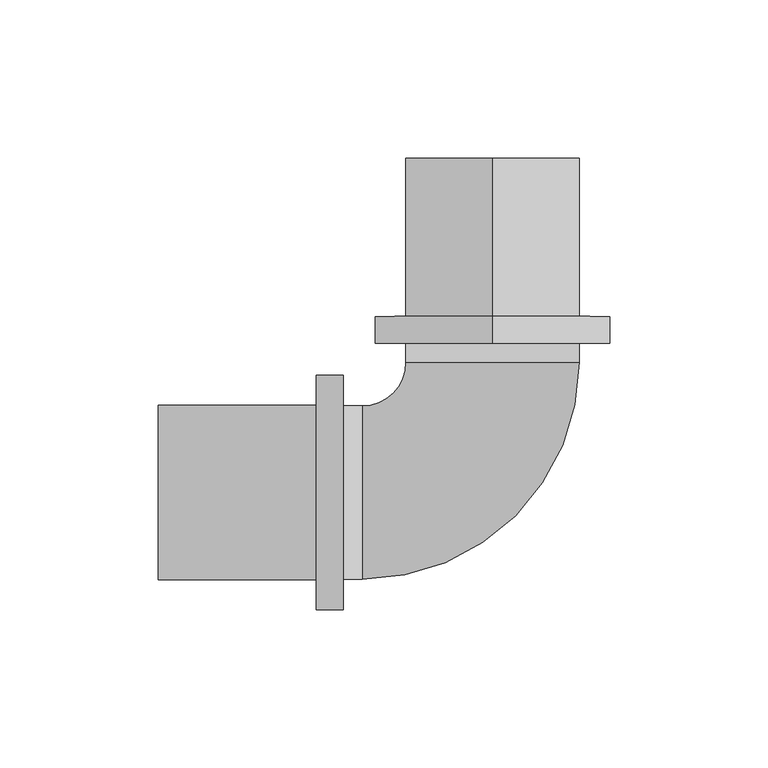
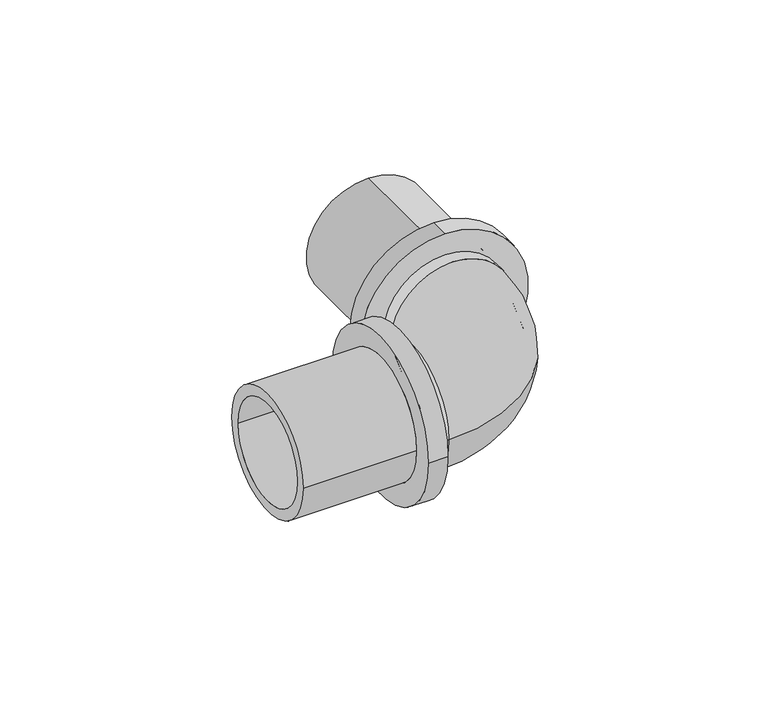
"""IFC4 building model written with IfcOpenShell, lengths in millimetres: pipe fitting geometry, RAUTITAN_Corner_RX+ stabil : RTI RX+ stabil C DN."""

from ifc_helpers import new_model, si_unit, point, frame, origin, place, context, project, spatial, polyline, circle_curve, ellipse_curve, trimmed, source, transform, mapped, element, save
from ifc_brep_helpers import plane_surface, cylinder_surface, revolved_surface, advanced_brep


def pipe_fitting_89e89fea(model_context):
    return source(origin(), model_context, "Body", "AdvancedBrep", [
        advanced_brep(
        [(0.0, 55.6, 37.05), (0.0, 55.6, -37.05), (0.0, 47.1, -37.05), (0.0, 47.1, 37.05), (0.0, 105.6, 27.55), (0.0, 105.6, -27.55), (0.0, 55.6, -27.55), (0.0, 55.6, 27.55), (0.0, 47.1, 22.75), (0.0, 47.1, -22.75), (0.0, 105.6, -22.75), (0.0, 105.6, 22.75)],
        [
            (0, 1, circle_curve(frame((0.0, 55.6, 0.0), z_axis=(0.0, -1.0, 0.0), x_axis=(0.0, 0.0, -1.0)), 37.05)),
            (1, 2),
            (2, 3, circle_curve(frame((0.0, 47.1, 0.0), z_axis=(0.0, 1.0, 0.0), x_axis=(0.0, 0.0, -1.0)), 37.05)),
            (3, 0),
            (4, 5, circle_curve(frame((0.0, 105.6, 0.0), z_axis=(0.0, -1.0, 0.0), x_axis=(0.0, 0.0, -1.0)), 27.55)),
            (5, 6),
            (6, 7, circle_curve(frame((0.0, 55.6, 0.0), z_axis=(0.0, 1.0, 0.0), x_axis=(0.0, 0.0, -1.0)), 27.55)),
            (7, 4),
            (8, 9, circle_curve(frame((0.0, 47.1, 0.0), z_axis=(0.0, -1.0, 0.0), x_axis=(0.0, 0.0, -1.0)), 22.75)),
            (9, 10),
            (10, 11, circle_curve(frame((0.0, 105.6, 0.0), z_axis=(0.0, 1.0, 0.0), x_axis=(0.0, 0.0, -1.0)), 22.75)),
            (11, 8),
            (1, 0, circle_curve(frame((0.0, 55.6, 0.0), z_axis=(0.0, -1.0, 0.0), x_axis=(0.0, 0.0, 1.0)), 37.05)),
            (3, 2, circle_curve(frame((0.0, 47.1, 0.0), z_axis=(0.0, 1.0, 0.0), x_axis=(0.0, 0.0, 1.0)), 37.05)),
            (6, 7, circle_curve(frame((0.0, 55.6, 0.0), z_axis=(0.0, -1.0, 0.0), x_axis=(0.0, 0.0, 1.0)), 27.55)),
            (5, 4, circle_curve(frame((0.0, 105.6, 0.0), z_axis=(0.0, -1.0, 0.0), x_axis=(0.0, 0.0, 1.0)), 27.55)),
            (10, 11, circle_curve(frame((0.0, 105.6, 0.0), z_axis=(0.0, -1.0, 0.0), x_axis=(0.0, 0.0, 1.0)), 22.75)),
            (9, 8, circle_curve(frame((0.0, 47.1, 0.0), z_axis=(0.0, -1.0, 0.0), x_axis=(0.0, 0.0, 1.0)), 22.75)),
        ],
        [
            cylinder_surface(frame((0.0, 47.1, 0.0), z_axis=(0.0, 1.0, 0.0), x_axis=(0.0, 0.0, -1.0)), 37.05),
            cylinder_surface(frame((0.0, 47.1, 0.0), z_axis=(0.0, 1.0, 0.0), x_axis=(0.0, 0.0, -1.0)), 27.55),
            revolved_surface(polyline([(0.0, 105.6, -22.75), (0.0, 47.1, -22.75)]), (0.0, 47.1, 0.0), (0.0, 1.0, 0.0)),
            cylinder_surface(frame((0.0, 47.1, 0.0), z_axis=(0.0, 1.0, 0.0), x_axis=(0.0, 0.0, 1.0)), 37.05),
            plane_surface(frame((0.0, 55.6, 0.0), z_axis=(0.0, 1.0, 0.0), x_axis=(0.0, 0.0, 1.0))),
            cylinder_surface(frame((0.0, 47.1, 0.0), z_axis=(0.0, 1.0, 0.0), x_axis=(0.0, 0.0, 1.0)), 27.55),
            plane_surface(frame((0.0, 105.6, 0.0), z_axis=(0.0, 1.0, 0.0), x_axis=(0.0, 0.0, 1.0))),
            revolved_surface(polyline([(0.0, 105.6, 22.75), (0.0, 47.1, 22.75)]), (0.0, 47.1, 0.0), (0.0, 1.0, 0.0)),
            plane_surface(frame((0.0, 47.1, 0.0), z_axis=(0.0, -1.0, 0.0), x_axis=(0.0, 0.0, 1.0))),
        ],
        [
            (0, [[1, 2, 3, 4]]),
            (1, [[5, 6, 7, 8]]),
            (2, [[9, 10, 11, 12]]),
            (3, [[13, -4, 14, -2]]),
            (4, [[-13, -1], [15, -7]]),
            (5, [[16, -8, -15, -6]]),
            (6, [[-16, -5], [17, -11]]),
            (7, [[18, -12, -17, -10]]),
            (8, [[-14, -3], [-18, -9]]),
        ],
    ),
        advanced_brep(
        [(-55.6, -37.05, 0.0), (-55.6, 37.05, 0.0), (-47.1, 37.05, 0.0), (-47.1, -37.05, 0.0), (-105.6, -27.55, 0.0), (-105.6, 27.55, 0.0), (-55.6, 27.55, 0.0), (-55.6, -27.55, 0.0), (-47.1, -22.75, 0.0), (-47.1, 22.75, 0.0), (-105.6, 22.75, 0.0), (-105.6, -22.75, 0.0)],
        [
            (0, 1, circle_curve(frame((-55.6, 0.0, 0.0), z_axis=(1.0, 0.0, 0.0), x_axis=(0.0, 1.0, 0.0)), 37.05)),
            (1, 2),
            (2, 3, circle_curve(frame((-47.1, 0.0, 0.0), z_axis=(-1.0, 0.0, 0.0), x_axis=(0.0, 1.0, 0.0)), 37.05)),
            (3, 0),
            (4, 5, circle_curve(frame((-105.6, 0.0, 0.0), z_axis=(1.0, 0.0, 0.0), x_axis=(0.0, 1.0, 0.0)), 27.55)),
            (5, 6),
            (6, 7, circle_curve(frame((-55.6, 0.0, 0.0), z_axis=(-1.0, 0.0, 0.0), x_axis=(0.0, 1.0, 0.0)), 27.55)),
            (7, 4),
            (8, 9, circle_curve(frame((-47.1, 0.0, 0.0), z_axis=(1.0, 0.0, 0.0), x_axis=(0.0, 1.0, 0.0)), 22.75)),
            (9, 10),
            (10, 11, circle_curve(frame((-105.6, 0.0, 0.0), z_axis=(-1.0, 0.0, 0.0), x_axis=(0.0, 1.0, 0.0)), 22.75)),
            (11, 8),
            (1, 0, circle_curve(frame((-55.6, 0.0, 0.0), z_axis=(1.0, 0.0, 0.0), x_axis=(0.0, -1.0, 0.0)), 37.05)),
            (3, 2, circle_curve(frame((-47.1, 0.0, 0.0), z_axis=(-1.0, 0.0, 0.0), x_axis=(0.0, -1.0, 0.0)), 37.05)),
            (6, 7, circle_curve(frame((-55.6, 0.0, 0.0), z_axis=(1.0, 0.0, 0.0), x_axis=(0.0, -1.0, 0.0)), 27.55)),
            (5, 4, circle_curve(frame((-105.6, 0.0, 0.0), z_axis=(1.0, 0.0, 0.0), x_axis=(0.0, -1.0, 0.0)), 27.55)),
            (10, 11, circle_curve(frame((-105.6, 0.0, 0.0), z_axis=(1.0, 0.0, 0.0), x_axis=(0.0, -1.0, 0.0)), 22.75)),
            (9, 8, circle_curve(frame((-47.1, 0.0, 0.0), z_axis=(1.0, 0.0, 0.0), x_axis=(0.0, -1.0, 0.0)), 22.75)),
        ],
        [
            cylinder_surface(frame((-47.1, 0.0, 0.0), z_axis=(-1.0, 0.0, 0.0), x_axis=(0.0, 1.0, 0.0)), 37.05),
            cylinder_surface(frame((-47.1, 0.0, 0.0), z_axis=(-1.0, 0.0, 0.0), x_axis=(0.0, 1.0, 0.0)), 27.55),
            revolved_surface(polyline([(-105.6, 22.75, 0.0), (-47.1, 22.75, 0.0)]), (-47.1, 0.0, 0.0), (-1.0, 0.0, 0.0)),
            cylinder_surface(frame((-47.1, 0.0, 0.0), z_axis=(-1.0, 0.0, 0.0), x_axis=(0.0, -1.0, 0.0)), 37.05),
            plane_surface(frame((-55.6, 0.0, 0.0), z_axis=(-1.0, 0.0, 0.0), x_axis=(0.0, -1.0, 0.0))),
            cylinder_surface(frame((-47.1, 0.0, 0.0), z_axis=(-1.0, 0.0, 0.0), x_axis=(0.0, -1.0, 0.0)), 27.55),
            plane_surface(frame((-105.6, 0.0, 0.0), z_axis=(-1.0, 0.0, 0.0), x_axis=(0.0, -1.0, 0.0))),
            revolved_surface(polyline([(-105.6, -22.75, 0.0), (-47.1, -22.75, 0.0)]), (-47.1, 0.0, 0.0), (-1.0, 0.0, 0.0)),
            plane_surface(frame((-47.1, 0.0, 0.0), z_axis=(1.0, 0.0, 0.0), x_axis=(0.0, -1.0, 0.0))),
        ],
        [
            (0, [[1, 2, 3, 4]]),
            (1, [[5, 6, 7, 8]]),
            (2, [[9, 10, 11, 12]]),
            (3, [[13, -4, 14, -2]]),
            (4, [[-13, -1], [15, -7]]),
            (5, [[16, -8, -15, -6]]),
            (6, [[-16, -5], [17, -11]]),
            (7, [[18, -12, -17, -10]]),
            (8, [[-14, -3], [-18, -9]]),
        ],
    ),
        advanced_brep(
        [(-47.1, 27.35, 0.0), (-47.1, -27.35, 0.0), (-47.1, 22.75, 0.0), (-47.1, -22.75, 0.0), (-41.15, -22.75, 0.0), (-41.15, 0.0, -22.75), (-41.15, 22.75, 0.0), (-41.15, 0.0, 22.75), (-41.15, -27.35, 0.0), (-41.15, 27.35, 0.0), (27.35, 47.1, 0.0), (-27.35, 47.1, 0.0), (22.75, 47.1, 0.0), (-22.75, 47.1, 0.0), (-22.75, 41.15, 0.0), (0.0, 41.15, -22.75), (22.75, 41.15, 0.0), (0.0, 41.15, 22.75), (-27.35, 41.15, 0.0), (27.35, 41.15, 0.0)],
        [
            (0, 1, circle_curve(frame((-47.1, 0.0, 0.0), z_axis=(-1.0, 0.0, 0.0), x_axis=(0.0, -1.0, 0.0)), 27.35)),
            (1, 0, circle_curve(frame((-47.1, 0.0, 0.0), z_axis=(-1.0, 0.0, 0.0), x_axis=(0.0, -1.0, 0.0)), 27.35)),
            (2, 3, circle_curve(frame((-47.1, 0.0, 0.0), z_axis=(1.0, 0.0, 0.0), x_axis=(0.0, -1.0, 0.0)), 22.75)),
            (3, 2, circle_curve(frame((-47.1, 0.0, 0.0), z_axis=(1.0, 0.0, 0.0), x_axis=(0.0, -1.0, 0.0)), 22.75)),
            (3, 4),
            (4, 5, circle_curve(frame((-41.15, 0.0, 0.0), z_axis=(1.0, 0.0, 0.0), x_axis=(0.0, -1.0, 0.0)), 22.75)),
            (5, 6, circle_curve(frame((-41.15, 0.0, 0.0), z_axis=(1.0, 0.0, 0.0), x_axis=(0.0, -1.0, 0.0)), 22.75)),
            (6, 2),
            (6, 7, circle_curve(frame((-41.15, 0.0, 0.0), z_axis=(1.0, 0.0, 0.0), x_axis=(0.0, -1.0, 0.0)), 22.75)),
            (7, 4, circle_curve(frame((-41.15, 0.0, 0.0), z_axis=(1.0, 0.0, 0.0), x_axis=(0.0, -1.0, 0.0)), 22.75)),
            (1, 8),
            (8, 9, circle_curve(frame((-41.15, 0.0, 0.0), z_axis=(-1.0, 0.0, 0.0), x_axis=(0.0, -1.0, 0.0)), 27.35)),
            (9, 0),
            (9, 8, circle_curve(frame((-41.15, 0.0, 0.0), z_axis=(-1.0, 0.0, 0.0), x_axis=(0.0, -1.0, 0.0)), 27.35)),
            (10, 11, circle_curve(frame((0.0, 47.1, 0.0), z_axis=(0.0, 1.0, 0.0), x_axis=(-1.0, 0.0, 0.0)), 27.35)),
            (11, 10, circle_curve(frame((0.0, 47.1, 0.0), z_axis=(0.0, 1.0, 0.0), x_axis=(-1.0, 0.0, 0.0)), 27.35)),
            (12, 13, circle_curve(frame((0.0, 47.1, 0.0), z_axis=(0.0, -1.0, 0.0), x_axis=(-1.0, 0.0, 0.0)), 22.75)),
            (13, 12, circle_curve(frame((0.0, 47.1, 0.0), z_axis=(0.0, -1.0, 0.0), x_axis=(-1.0, 0.0, 0.0)), 22.75)),
            (13, 14),
            (14, 15, circle_curve(frame((0.0, 41.15, 0.0), z_axis=(0.0, -1.0, 0.0), x_axis=(-1.0, 0.0, 0.0)), 22.75)),
            (15, 16, circle_curve(frame((0.0, 41.15, 0.0), z_axis=(0.0, -1.0, 0.0), x_axis=(-1.0, 0.0, 0.0)), 22.75)),
            (16, 12),
            (16, 17, circle_curve(frame((0.0, 41.15, 0.0), z_axis=(0.0, -1.0, 0.0), x_axis=(-1.0, 0.0, 0.0)), 22.75)),
            (17, 14, circle_curve(frame((0.0, 41.15, 0.0), z_axis=(0.0, -1.0, 0.0), x_axis=(-1.0, 0.0, 0.0)), 22.75)),
            (11, 18),
            (18, 19, circle_curve(frame((0.0, 41.15, 0.0), z_axis=(0.0, 1.0, 0.0), x_axis=(-1.0, 0.0, 0.0)), 27.35)),
            (19, 10),
            (19, 18, circle_curve(frame((0.0, 41.15, 0.0), z_axis=(0.0, 1.0, 0.0), x_axis=(-1.0, 0.0, 0.0)), 27.35)),
            (14, 6, circle_curve(frame((-41.15, 41.15, 0.0), z_axis=(0.0, 0.0, -1.0), x_axis=(0.0, -1.0, 0.0)), 18.4)),
            (4, 16, circle_curve(frame((-41.15, 41.15, 0.0), z_axis=(0.0, 0.0, 1.0), x_axis=(0.0, -1.0, 0.0)), 63.9)),
            (18, 9, circle_curve(frame((-41.15, 41.15, 0.0), z_axis=(0.0, 0.0, -1.0), x_axis=(0.0, -1.0, 0.0)), 13.8)),
            (8, 19, circle_curve(frame((-41.15, 41.15, 0.0), z_axis=(0.0, 0.0, 1.0), x_axis=(0.0, -1.0, 0.0)), 68.5)),
        ],
        [
            plane_surface(frame((-47.1, 0.0, 0.0), z_axis=(-1.0, 0.0, 0.0), x_axis=(0.0, 0.0, 1.0))),
            revolved_surface(polyline([(-47.1, -22.75, 0.0), (-41.15, -22.75, 0.0)]), (-41.15, 0.0, 0.0), (-1.0, 0.0, 0.0)),
            cylinder_surface(frame((-41.15, 0.0, 0.0), z_axis=(1.0, 0.0, 0.0), x_axis=(0.0, -1.0, 0.0)), 27.35),
            plane_surface(frame((0.0, 47.1, 0.0), z_axis=(0.0, 1.0, 0.0), x_axis=(0.0, 0.0, 1.0))),
            revolved_surface(polyline([(-22.75, 47.1, 0.0), (-22.75, 41.15, 0.0)]), (0.0, 41.15, 0.0), (0.0, 1.0, 0.0)),
            cylinder_surface(frame((0.0, 41.15, 0.0), z_axis=(0.0, -1.0, 0.0), x_axis=(-1.0, 0.0, 0.0)), 27.35),
            revolved_surface(trimmed(ellipse_curve(frame((-41.15, 0.0, 0.0), z_axis=(1.0, 0.0, 0.0), x_axis=(0.0, 1.0, 0.0)), 22.75, 22.75), [point((-41.15, -22.75, 0.0))], [point((-41.15, 22.75, 0.0))], True, "CARTESIAN"), (-41.15, 41.15, 0.0), (0.0, 0.0, 1.0)),
            revolved_surface(trimmed(ellipse_curve(frame((-41.15, 0.0, 0.0), z_axis=(1.0, 0.0, 0.0), x_axis=(0.0, 1.0, 0.0)), 22.75, 22.75), [point((-41.15, 22.75, 0.0))], [point((-41.15, -22.75, 0.0))], True, "CARTESIAN"), (-41.15, 41.15, 0.0), (0.0, 0.0, 1.0)),
            revolved_surface(trimmed(ellipse_curve(frame((-41.15, 0.0, 0.0), z_axis=(-1.0, 0.0, 0.0), x_axis=(0.0, 1.0, 0.0)), 27.35, 27.35), [point((-41.15, -27.35, 0.0))], [point((-41.15, 27.35, 0.0))], True, "CARTESIAN"), (-41.15, 41.15, 0.0), (0.0, 0.0, 1.0)),
            revolved_surface(trimmed(ellipse_curve(frame((-41.15, 0.0, 0.0), z_axis=(-1.0, 0.0, 0.0), x_axis=(0.0, 1.0, 0.0)), 27.35, 27.35), [point((-41.15, 27.35, 0.0))], [point((-41.15, -27.35, 0.0))], True, "CARTESIAN"), (-41.15, 41.15, 0.0), (0.0, 0.0, 1.0)),
        ],
        [
            (0, [[1, 2], [3, 4]]),
            (1, [[-4, 5, 6, 7, 8]]),
            (1, [[-3, -8, 9, 10, -5]]),
            (2, [[-2, 11, 12, 13]]),
            (2, [[-1, -13, 14, -11]]),
            (3, [[15, 16], [17, 18]]),
            (4, [[-18, 19, 20, 21, 22]]),
            (4, [[-17, -22, 23, 24, -19]]),
            (5, [[-16, 25, 26, 27]]),
            (5, [[-15, -27, 28, -25]]),
            (6, [[29, -7, -6, 30, -21, -20]]),
            (7, [[-29, -24, -23, -30, -10, -9]]),
            (8, [[31, -12, 32, -26]]),
            (9, [[-31, -28, -32, -14]]),
        ],
    ),
    ])


if __name__ == "__main__":
    model = new_model("IFC4")
    model_context = context("Model", 3, world=origin())
    ifc_project = project(units=[si_unit("LENGTHUNIT", "METRE", prefix="MILLI")], contexts=[model_context])
    site = spatial("IfcSite", under=ifc_project)
    building = spatial("IfcBuilding", under=site)
    placement = place(None, origin())
    pipe_fitting_shape = pipe_fitting_89e89fea(model_context)
    element("IfcPipeFitting", 1, ObjectType="RAUTITAN_Corner_RX+ stabil : RTI RX+ stabil C DN", at=placement, inside=building, context=model_context, shape_type="MappedRepresentation", body=[
        mapped(pipe_fitting_shape, transform((0.0, 0.0, 0.0), x_axis=(1.0, 0.0, 0.0), y_axis=(0.0, 1.0, 0.0), z_axis=(0.0, 0.0, 1.0))),
    ])
    save(model, "model.ifc")
